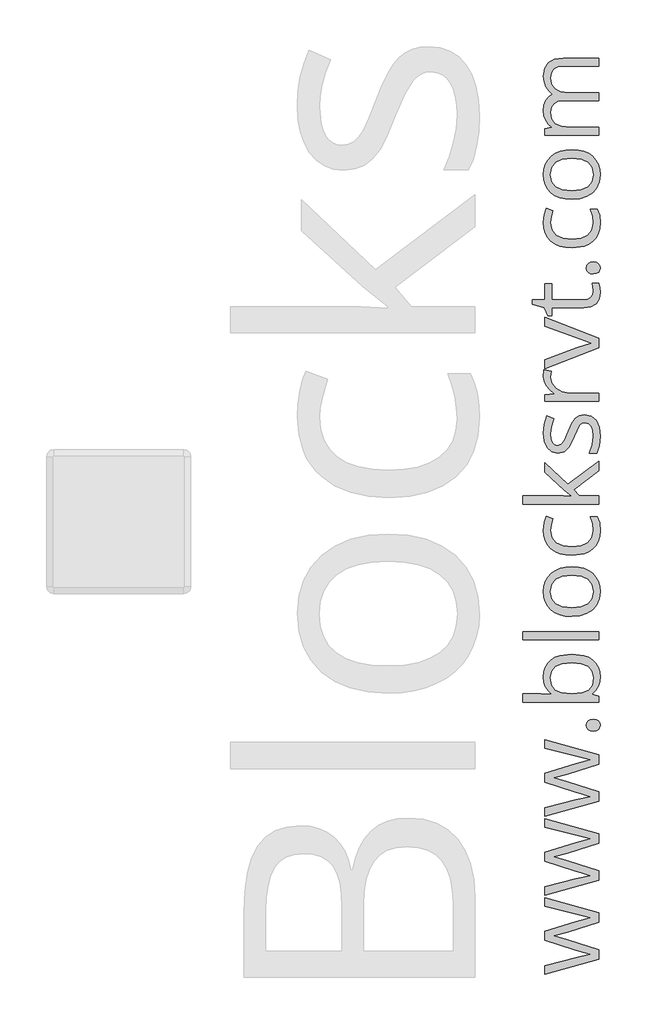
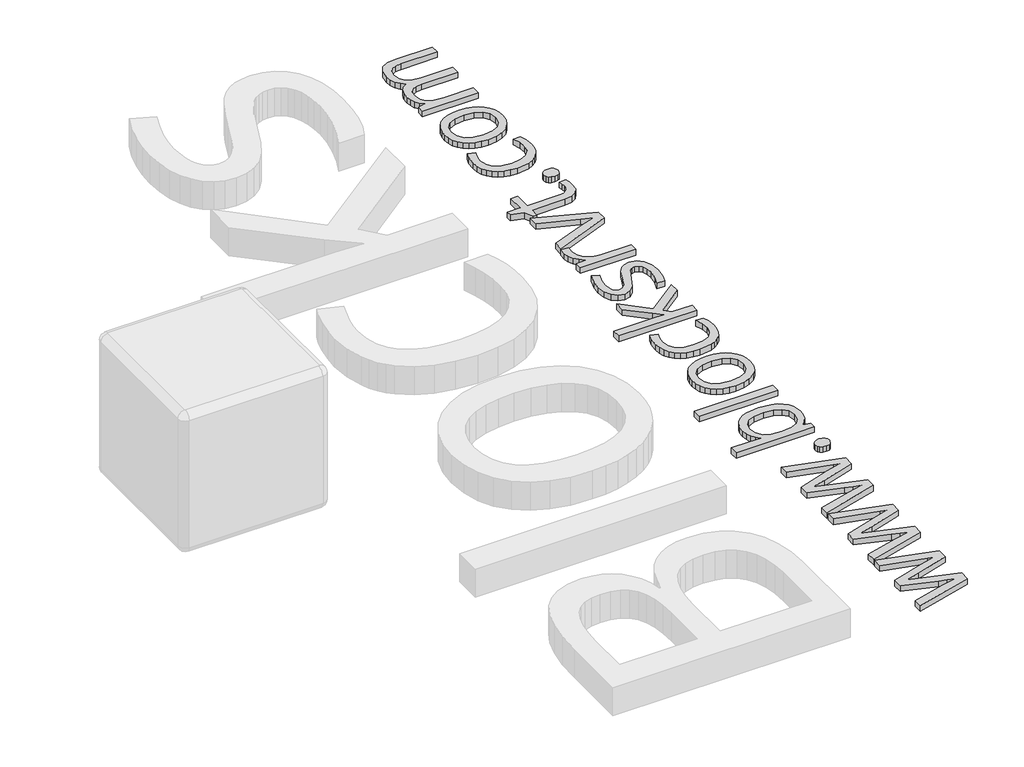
# One storey, part 12 of 12: 1 proxy.
"""IFC4 building model written with IfcOpenShell, lengths in millimetres."""

import ifcopenshell
import ifcopenshell.guid

model = None  # the IFC model being written
_history = None  # IfcOwnerHistory: only IFC2X3 demands one
_inside = {}  # id of a spatial element -> (the spatial element, [elements in it])
_under = {}  # id of a project, library or spatial element -> (it, [spatial elements below it])
_declared = {}  # id of a project -> (the project, [libraries it declares])
_typed = {}  # id of a type object -> (the type object, [elements of that type])
_made_of = {}  # id of a material, layer set ... -> (it, [elements and type objects made of it])


def new_model(schema):
    """Start an empty IFC model of exactly this schema.

    Asked for "IFC4X3", IfcOpenShell would pick the latest addendum, in which some entities
    have other attributes; the version numbers below select the first issue.
    IFC2X3 requires an IfcOwnerHistory on every rooted entity: one is made here for all.
    """
    global model, _history
    if schema == "IFC4X3":
        model = ifcopenshell.file(schema_version=(4, 3, 0, 0))
    else:
        model = ifcopenshell.file(schema=schema)
    _inside.clear()
    _under.clear()
    _declared.clear()
    _typed.clear()
    _made_of.clear()
    _history = None
    if model.schema == "IFC2X3":
        org = make("IfcOrganization", Name="unknown")
        user = make(
            "IfcPersonAndOrganization",
            ThePerson=make("IfcPerson", FamilyName="unknown"),
            TheOrganization=org,
        )
        app = make(
            "IfcApplication",
            ApplicationDeveloper=org,
            Version="unknown",
            ApplicationFullName="unknown",
            ApplicationIdentifier="unknown",
        )
        _history = make(
            "IfcOwnerHistory",
            OwningUser=user,
            OwningApplication=app,
            ChangeAction="ADDED",
            CreationDate=0,
        )
    return model


def make(cls, **values):
    """One entity of the class cls with the attributes given. An attribute that is None is left unset."""
    return model.create_entity(
        cls, **{name: value for name, value in values.items() if value is not None}
    )


def rooted(cls, **values):
    """An entity with a GlobalId (a new one), such as an element, a storey or a relation."""
    return make(cls, GlobalId=ifcopenshell.guid.new(), OwnerHistory=_history, **values)


def si_unit(unit_type, name, prefix=None):
    """IfcSIUnit, for example si_unit("LENGTHUNIT", "METRE", prefix="MILLI")."""
    return make("IfcSIUnit", UnitType=unit_type, Prefix=prefix, Name=name)


def assignment(units):
    """IfcUnitAssignment: the units of a project."""
    return None if units is None else make("IfcUnitAssignment", Units=units)


def point(xyz):
    """IfcCartesianPoint."""
    return None if xyz is None else make("IfcCartesianPoint", Coordinates=xyz)


def direction(xyz):
    """IfcDirection."""
    return None if xyz is None else make("IfcDirection", DirectionRatios=xyz)


def frame(location, z_axis=None, x_axis=None):
    """IfcAxis2Placement3D, a coordinate frame: its origin and axes. An axis left out is left unset."""
    return make(
        "IfcAxis2Placement3D",
        Location=point(location),
        Axis=direction(z_axis),
        RefDirection=direction(x_axis),
    )


def origin():
    """The frame at (0, 0, 0) with its axes left unset."""
    return frame((0.0, 0.0, 0.0))


def origin_with_axes():
    """The frame at (0, 0, 0) with the z axis (0, 0, 1) and the x axis (1, 0, 0) written out."""
    return frame((0.0, 0.0, 0.0), z_axis=(0.0, 0.0, 1.0), x_axis=(1.0, 0.0, 0.0))


def place(relative_to, where):
    """IfcLocalPlacement: puts the frame where relative to a parent placement (None: the world)."""
    return make(
        "IfcLocalPlacement", PlacementRelTo=relative_to, RelativePlacement=where
    )


def context(
    kind, dimensions, precision=None, world=None, true_north=None, identifier=None
):
    """IfcGeometricRepresentationContext, for example the 3D "Model" context."""
    return make(
        "IfcGeometricRepresentationContext",
        ContextIdentifier=identifier,
        ContextType=kind,
        CoordinateSpaceDimension=dimensions,
        Precision=precision,
        WorldCoordinateSystem=world,
        TrueNorth=true_north,
    )


def project(units=None, contexts=None):
    """IfcProject with its units and contexts."""
    return rooted(
        "IfcProject",
        Name="project",
        RepresentationContexts=contexts,
        UnitsInContext=assignment(units),
    )


def spatial(cls, under=None, at=None, **own):
    """A site, building, storey or space (cls), placed at a placement, below another one or the project."""
    s = rooted(cls, ObjectPlacement=at, **own)
    if under is not None:
        _under.setdefault(under.id(), (under, []))[1].append(s)
    return s


def polyline(points):
    """IfcPolyline through the points."""
    return make("IfcPolyline", Points=[point(p) for p in points])


def outline(outer, holes=None, kind="AREA"):
    """IfcArbitraryClosedProfileDef: a profile drawn as a closed curve; with holes, ...WithVoids."""
    if holes is None:
        return make("IfcArbitraryClosedProfileDef", ProfileType=kind, OuterCurve=outer)
    return make(
        "IfcArbitraryProfileDefWithVoids",
        ProfileType=kind,
        OuterCurve=outer,
        InnerCurves=holes,
    )


def extrude(swept, where, along, depth):
    """IfcExtrudedAreaSolid: the profile swept, set in the frame where, extruded along a direction by depth."""
    return make(
        "IfcExtrudedAreaSolid",
        SweptArea=swept,
        Position=where,
        ExtrudedDirection=direction(along),
        Depth=depth,
    )


def shape(context_of_items, identifier, shape_type, items):
    """IfcShapeRepresentation: the items that make up one representation, for example the "Body"."""
    return make(
        "IfcShapeRepresentation",
        ContextOfItems=context_of_items,
        RepresentationIdentifier=identifier,
        RepresentationType=shape_type,
        Items=items,
    )


def made_of(thing, what):
    """Note that an element or type object is made of a material, layer set ...; save() writes the relation."""
    if what is not None:
        _made_of.setdefault(what.id(), (what, []))[1].append(thing)
    return thing


def element(
    cls,
    number,
    at=None,
    inside=None,
    cuts=None,
    type_object=None,
    material=None,
    context=None,
    identifier="Body",
    shape_type=None,
    held_by="IfcProductDefinitionShape",
    body=None,
    shapes=None,
    **own,
):
    """One element of the class cls, such as IfcWall. Its Tag is "e" and its number.

    at: its placement. inside: the storey or other place that contains it. cuts: it is an
    opening in that element (IfcRelVoidsElement). A single representation is given by context,
    identifier, shape_type and body (its items); several are given by shapes. held_by: the class
    of the entity that holds the representations. save() writes the other relations.
    """
    e = rooted(cls, Tag="e%d" % number, ObjectPlacement=at, **own)
    if body is not None:
        shapes = [shape(context, identifier, shape_type, body)]
    if shapes is not None:
        e.Representation = make(held_by, Representations=shapes)
    if inside is not None:
        _inside.setdefault(inside.id(), (inside, []))[1].append(e)
    if cuts is not None:
        rooted(
            "IfcRelVoidsElement", RelatingBuildingElement=cuts, RelatedOpeningElement=e
        )
    if type_object is not None:
        _typed.setdefault(type_object.id(), (type_object, []))[1].append(e)
    return made_of(e, material)


def aggregate(whole, parts):
    """IfcRelAggregates: a whole, such as a stair, and the parts it consists of."""
    return rooted("IfcRelAggregates", RelatingObject=whole, RelatedObjects=parts)


def save(model, path):
    """Write the relations noted so far, then the file.

    IfcRelAggregates (storeys below a building ...), IfcRelContainedInSpatialStructure (elements
    in a storey), IfcRelDefinesByType, IfcRelAssociatesMaterial and IfcRelDeclares: one each for
    every whole, place, type object, material and project.
    """
    for whole, parts in _under.values():
        aggregate(whole, parts)
    for where, things in _inside.values():
        rooted(
            "IfcRelContainedInSpatialStructure",
            RelatedElements=things,
            RelatingStructure=where,
        )
    for kind, things in _typed.values():
        rooted("IfcRelDefinesByType", RelatedObjects=things, RelatingType=kind)
    for what, things in _made_of.values():
        rooted("IfcRelAssociatesMaterial", RelatedObjects=things, RelatingMaterial=what)
    for by, libraries in _declared.values():
        rooted("IfcRelDeclares", RelatingContext=by, RelatedDefinitions=libraries)
    model.write(path)


model = new_model("IFC4")

# Units and contexts
model_context = context("Model", 3, world=origin())
ifc_project = project(units=[si_unit("LENGTHUNIT", "METRE", prefix="MILLI")], contexts=[model_context])

# Site, building, storey
site = spatial("IfcSite", under=ifc_project)
building = spatial("IfcBuilding", under=site)
storey = spatial("IfcBuildingStorey", under=building, Name="PORTOBELLO - SHOWROOM", Elevation=0.0)

# Proxy
placement = place(None, origin())
element("IfcBuildingElementProxy", 1, Name="25mm OpenSans", ObjectType="25mm OpenSans", at=placement, inside=storey, context=model_context, shape_type="SweptSolid", body=[
    extrude(outline(polyline([(-9612.6766335, 10052.0380441), (-9722.4882768, 10017.5579377), (-9768.2118962, 10005.3399869), (-9722.1134931, 9991.9227281), (-9612.6766335, 9956.3932271), (-9612.6766335, 9923.4872125), (-9799.7686893, 9872.1418366), (-9799.7686893, 9901.9746244), (-9692.4306188, 9929.708623), (-9642.7342915, 9940.652309), (-9667.9197606, 9948.0730275), (-9692.4306188, 9955.4187893), (-9799.7686893, 9989.8988958), (-9799.7686893, 10020.7810781), (-9692.3556621, 10054.4366602), (-9643.0341185, 10067.4791353), (-9661.9981771, 10072.5761945), (-9799.7686893, 10108.3305657), (-9799.7686893, 10137.8635265), (-9612.6766335, 10085.8435398), (-9612.6766335, 10052.0380441)])), origin_with_axes(), (0.0, 0.0, 1.0), 20.0),
    extrude(outline(polyline([(-9612.6766335, 10325.4802796), (-9722.4882768, 10291.0001731), (-9768.2118962, 10278.7822224), (-9722.1134931, 10265.3649635), (-9612.6766335, 10229.8354626), (-9612.6766335, 10196.9294479), (-9799.7686893, 10145.584072), (-9799.7686893, 10175.4168598), (-9692.4306188, 10203.1508584), (-9642.7342915, 10214.0945444), (-9667.9197606, 10221.515263), (-9692.4306188, 10228.8610248), (-9799.7686893, 10263.3411312), (-9799.7686893, 10294.2233135), (-9692.3556621, 10327.8788957), (-9643.0341185, 10340.9213707), (-9661.9981771, 10346.0184299), (-9799.7686893, 10381.7728012), (-9799.7686893, 10411.3057619), (-9612.6766335, 10359.2857752), (-9612.6766335, 10325.4802796)])), origin_with_axes(), (0.0, 0.0, 1.0), 20.0),
    extrude(outline(polyline([(-9612.6766335, 10598.922515), (-9722.4882768, 10564.4424085), (-9768.2118962, 10552.2244578), (-9722.1134931, 10538.807199), (-9612.6766335, 10503.277698), (-9612.6766335, 10470.3716834), (-9799.7686893, 10419.0263075), (-9799.7686893, 10448.8590952), (-9692.4306188, 10476.5930939), (-9642.7342915, 10487.5367798), (-9667.9197606, 10494.9574984), (-9692.4306188, 10502.3032602), (-9799.7686893, 10536.7833666), (-9799.7686893, 10567.6655489), (-9692.3556621, 10601.3211311), (-9643.0341185, 10614.3636061), (-9661.9981771, 10619.4606653), (-9799.7686893, 10655.2150366), (-9799.7686893, 10684.7479973), (-9612.6766335, 10632.7280106), (-9612.6766335, 10598.922515)])), origin_with_axes(), (0.0, 0.0, 1.0), 20.0),
    extrude(outline(polyline([(-9631.7906055, 10713.9061743), (-9642.2002246, 10715.2085479), (-9649.7427479, 10719.1156686), (-9654.3244795, 10725.4588839), (-9655.8517233, 10734.0695409), (-9654.3244795, 10742.9331769), (-9649.7427479, 10749.5855888), (-9642.2002246, 10753.7456886), (-9631.7906055, 10755.1323885), (-9621.5871175, 10753.7175798), (-9614.0633334, 10749.4731536), (-9609.4253843, 10742.792633), (-9607.8794013, 10734.0695409), (-9613.4636794, 10719.6403659), (-9620.83755, 10715.3397222), (-9631.7906055, 10713.9061743)])), origin_with_axes(), (0.0, 0.0, 1.0), 20.0),
    extrude(outline(polyline([(-9804.5659215, 10902.2724949), (-9802.9660633, 10919.8568807), (-9798.1664887, 10935.3565318), (-9790.1671977, 10948.7714482), (-9778.9681903, 10960.1016299), (-9764.8458695, 10969.1034675), (-9748.0766384, 10975.5333515), (-9706.5974452, 10980.6772587), (-9664.977708, 10975.4865035), (-9648.0890146, 10968.9980596), (-9633.8144379, 10959.9142381), (-9622.4678594, 10948.5301812), (-9614.3631604, 10935.1410311), (-9609.5003411, 10919.746788), (-9607.8794013, 10902.3474517), (-9609.594037, 10884.7045059), (-9614.7379442, 10868.6543911), (-9623.4422972, 10854.6468479), (-9635.8382702, 10843.1316167), (-9635.8382702, 10841.0328276), (-9612.6766335, 10835.0362873), (-9612.6766335, 10814.7230072), (-9876.5244045, 10814.7230072), (-9876.5244045, 10843.0566599), (-9813.9355157, 10843.0566599), (-9776.1573121, 10841.7074384), (-9788.5860787, 10854.2626945), (-9797.4637692, 10867.8673452), (-9802.7903834, 10883.870612), (-9804.5659215, 10902.2724949)]), holes=[polyline([(-9780.5797605, 10898.299787), (-9776.344704, 10873.0299916), (-9763.6395343, 10855.9866998), (-9740.9088989, 10846.2891699), (-9706.5974452, 10843.0566599), (-9672.1454475, 10846.3828658), (-9649.1430939, 10856.3614836), (-9636.1849452, 10873.667124), (-9631.8655623, 10898.9743978), (-9636.7096425, 10922.0517081), (-9651.241883, 10938.3641715), (-9674.8438906, 10948.0617015), (-9706.8972722, 10951.2942114), (-9739.3441767, 10948.0617015), (-9762.3277911, 10938.3641715), (-9776.0167682, 10921.8830554), (-9780.5797605, 10898.299787)])]), origin_with_axes(), (0.0, 0.0, 1.0), 20.0),
    extrude(outline(polyline([(-9612.6766335, 11057.9576712), (-9612.6766335, 11029.6240185), (-9876.5244045, 11029.6240185), (-9876.5244045, 11057.9576712), (-9612.6766335, 11057.9576712)])), origin_with_axes(), (0.0, 0.0, 1.0), 20.0),
    extrude(outline(polyline([(-9706.3725749, 11282.9028873), (-9684.4453822, 11281.4623122), (-9665.0620343, 11277.1405869), (-9648.2225313, 11269.9377114), (-9633.926873, 11259.8536857), (-9622.5311041, 11247.2351848), (-9614.3912692, 11232.4288837), (-9609.5073683, 11215.4347823), (-9607.8794013, 11196.2528807), (-9610.8683018, 11172.5571771), (-9619.8350034, 11151.6910909), (-9634.3859831, 11134.4604073), (-9654.127718, 11121.6709113), (-9678.3574884, 11113.7442347), (-9706.3725749, 11111.1020091), (-9728.290398, 11112.5308722), (-9747.6456371, 11116.8174616), (-9764.4382922, 11123.9617771), (-9778.6683633, 11133.9638188), (-9789.998545, 11146.5050206), (-9798.091532, 11161.2668162), (-9802.9473241, 11178.2492055), (-9804.5659215, 11197.4521887), (-9802.9098457, 11216.0484907), (-9797.9416185, 11232.6350147), (-9789.6612396, 11247.2117608), (-9778.0687093, 11259.778729), (-9763.6512463, 11269.8955482), (-9746.8960696, 11277.1218477), (-9727.8031791, 11281.4576274), (-9706.3725749, 11282.9028873)]), holes=[polyline([(-9706.5974452, 11140.5600131), (-9674.4409981, 11144.1391981), (-9650.9795343, 11154.876753), (-9636.6440553, 11172.5478075), (-9631.8655623, 11196.9274915), (-9636.6253161, 11221.3259146), (-9650.9045776, 11239.0531867), (-9674.3473021, 11249.8469592), (-9706.5974452, 11253.4448833), (-9738.5196524, 11249.8469592), (-9761.7281371, 11239.0531867), (-9775.8668547, 11221.2322187), (-9780.5797605, 11196.5527077), (-9775.9324418, 11172.2198717), (-9761.9904857, 11154.6893611), (-9738.8475882, 11144.0923501), (-9706.5974452, 11140.5600131)])]), origin_with_axes(), (0.0, 0.0, 1.0), 20.0),
    extrude(outline(polyline([(-9607.8794013, 11408.3055353), (-9609.4652051, 11388.9620082), (-9614.2226165, 11371.9327708), (-9622.1516356, 11357.2178232), (-9633.2522622, 11344.8171654), (-9647.2527783, 11334.9790915), (-9663.8814655, 11327.9518959), (-9705.0233534, 11322.3301394), (-9727.4705585, 11323.7566602), (-9747.2146358, 11328.0362223), (-9764.2555851, 11335.1688258), (-9778.5934065, 11345.1544708), (-9789.9563818, 11357.7776565), (-9798.0727928, 11372.8228823), (-9802.9426393, 11390.2901482), (-9804.5659215, 11410.1794541), (-9801.7925216, 11437.4262339), (-9795.2712841, 11458.7514301), (-9771.8098204, 11449.98149), (-9778.0687093, 11429.2559478), (-9780.5797605, 11409.4298866), (-9775.8902786, 11384.211624), (-9761.821833, 11366.1985792), (-9738.3744237, 11355.3907524), (-9705.5480506, 11351.7881434), (-9674.0849535, 11355.3017412), (-9650.9045776, 11365.8425346), (-9636.6253161, 11383.2793493), (-9631.8655623, 11407.481011), (-9634.3953527, 11431.4484328), (-9641.984724, 11455.9780303), (-9617.3239522, 11455.9780303), (-9610.240539, 11434.5778773), (-9607.8794013, 11408.3055353)])), origin_with_axes(), (0.0, 0.0, 1.0), 20.0),
    extrude(outline(polyline([(-9706.5224884, 11527.5617295), (-9734.4064006, 11550.4235392), (-9799.7686893, 11610.3889417), (-9799.7686893, 11643.7446969), (-9720.014704, 11568.4881167), (-9612.6766335, 11648.9916696), (-9612.6766335, 11614.8863469), (-9699.0268131, 11549.2991879), (-9681.0371923, 11528.3112971), (-9612.6766335, 11528.3112971), (-9612.6766335, 11500.2774714), (-9876.5244045, 11500.2774714), (-9876.5244045, 11528.3112971), (-9735.5307519, 11528.3112971), (-9706.5224884, 11527.5617295)])), origin_with_axes(), (0.0, 0.0, 1.0), 20.0),
    extrude(outline(polyline([(-9663.1225284, 11809.2492078), (-9639.6329558, 11804.3489101), (-9622.2336195, 11789.6480168), (-9611.4679558, 11766.1022268), (-9607.8794013, 11734.6672384), (-9610.840193, 11701.3677008), (-9619.7225683, 11676.2759277), (-9646.2572589, 11676.2759277), (-9635.7258351, 11705.4341047), (-9631.8655623, 11735.416806), (-9633.6457852, 11755.2334976), (-9638.9864538, 11769.859434), (-9647.9812642, 11778.8823532), (-9660.7239123, 11781.8899929), (-9671.0117266, 11779.5007464), (-9679.6879708, 11772.3330069), (-9698.2772456, 11735.1169789), (-9715.5172988, 11697.7135591), (-9732.1951764, 11681.1855951), (-9754.5697672, 11675.7512305), (-9775.2953094, 11680.4360275), (-9791.1486627, 11694.4904187), (-9801.2116068, 11716.715096), (-9804.5659215, 11745.9107514), (-9801.4552163, 11775.9496702), (-9792.1231005, 11805.3514566), (-9768.9614638, 11795.1573382), (-9777.6751863, 11768.0979503), (-9780.5797605, 11743.7370056), (-9778.9775599, 11725.9160375), (-9774.1709581, 11713.0796935), (-9766.5347389, 11705.3216696), (-9756.443686, 11702.7356616), (-9743.4386893, 11706.5959344), (-9733.2445709, 11719.0762338), (-9719.1901797, 11752.1321619), (-9706.8597938, 11780.2128355), (-9694.4544512, 11797.4435192), (-9680.4000599, 11806.2977856), (-9663.1225284, 11809.2492078)])), origin_with_axes(), (0.0, 0.0, 1.0), 20.0),
    extrude(outline(polyline([(-9804.5659215, 11941.6977906), (-9802.6920027, 11964.33473), (-9778.0312309, 11960.3620221), (-9780.5797605, 11939.6739582), (-9775.8855938, 11918.3393924), (-9761.8030938, 11900.3591412), (-9740.7121374, 11888.1318209), (-9714.9926015, 11884.0560474), (-9612.6766335, 11884.0560474), (-9612.6766335, 11855.7223947), (-9799.7686893, 11855.7223947), (-9799.7686893, 11879.1089017), (-9766.1880639, 11882.3320421), (-9782.5098969, 11895.3182996), (-9794.5966733, 11909.091603), (-9802.0736095, 11924.6638684), (-9804.5659215, 11941.6977906)])), origin_with_axes(), (0.0, 0.0, 1.0), 20.0),
    extrude(outline(polyline([(-9612.6766335, 12041.3153155), (-9799.7686893, 11969.3568325), (-9799.7686893, 12000.164058), (-9688.8326947, 12041.0154885), (-9638.3118431, 12057.2061471), (-9675.7902196, 12070.623406), (-9799.7686893, 12116.0471984), (-9799.7686893, 12146.8544239), (-9612.6766335, 12074.8959409), (-9612.6766335, 12041.3153155)])), origin_with_axes(), (0.0, 0.0, 1.0), 20.0),
    extrude(outline(polyline([(-9631.8655623, 12238.226706), (-9632.9899136, 12252.9182296), (-9635.3135729, 12264.1617425), (-9613.126374, 12264.1617425), (-9609.3785364, 12250.4446567), (-9607.8794013, 12234.1790413), (-9611.4398471, 12210.1741411), (-9622.1211844, 12193.0277838), (-9639.9234133, 12182.7399695), (-9664.8465337, 12179.310698), (-9775.7825283, 12179.310698), (-9775.7825283, 12152.1763534), (-9789.7994411, 12152.1763534), (-9801.9424351, 12179.1607845), (-9842.9437791, 12191.2288217), (-9842.9437791, 12207.7193074), (-9799.7686893, 12207.7193074), (-9799.7686893, 12262.812521), (-9775.7825283, 12262.812521), (-9775.7825283, 12207.7193074), (-9666.570539, 12207.7193074), (-9651.7384715, 12209.7525094), (-9640.8228943, 12215.8521151), (-9634.1048953, 12225.5121667), (-9631.8655623, 12238.226706)])), origin_with_axes(), (0.0, 0.0, 1.0), 20.0),
    extrude(outline(polyline([(-9631.7906055, 12296.9928004), (-9642.2002246, 12298.295174), (-9649.7427479, 12302.2022948), (-9654.3244795, 12308.54551), (-9655.8517233, 12317.156167), (-9654.3244795, 12326.0198031), (-9649.7427479, 12332.6722149), (-9642.2002246, 12336.8323147), (-9631.7906055, 12338.2190146), (-9621.5871175, 12336.8042059), (-9614.0633334, 12332.5597798), (-9609.4253843, 12325.8792592), (-9607.8794013, 12317.156167), (-9613.4636794, 12302.726992), (-9620.83755, 12298.4263483), (-9631.7906055, 12296.9928004)])), origin_with_axes(), (0.0, 0.0, 1.0), 20.0),
    extrude(outline(polyline([(-9607.8794013, 12473.2910838), (-9609.4652051, 12453.9475567), (-9614.2226165, 12436.9183193), (-9622.1516356, 12422.2033717), (-9633.2522622, 12409.8027139), (-9647.2527783, 12399.96464), (-9663.8814655, 12392.9374444), (-9705.0233534, 12387.3156879), (-9727.4705585, 12388.7422086), (-9747.2146358, 12393.0217708), (-9764.2555851, 12400.1543743), (-9778.5934065, 12410.1400193), (-9789.9563818, 12422.763205), (-9798.0727928, 12437.8084308), (-9802.9426393, 12455.2756966), (-9804.5659215, 12475.1650026), (-9801.7925216, 12502.4117824), (-9795.2712841, 12523.7369786), (-9771.8098204, 12514.9670385), (-9778.0687093, 12494.2414963), (-9780.5797605, 12474.4154351), (-9775.8902786, 12449.1971724), (-9761.821833, 12431.1841277), (-9738.3744237, 12420.3763009), (-9705.5480506, 12416.7736919), (-9674.0849535, 12420.2872897), (-9650.9045776, 12430.8280831), (-9636.6253161, 12448.2648978), (-9631.8655623, 12472.4665595), (-9634.3953527, 12496.4339813), (-9641.984724, 12520.9635788), (-9617.3239522, 12520.9635788), (-9610.240539, 12499.5634257), (-9607.8794013, 12473.2910838)])), origin_with_axes(), (0.0, 0.0, 1.0), 20.0),
    extrude(outline(polyline([(-9706.3725749, 12726.8697796), (-9684.4453822, 12725.4292045), (-9665.0620343, 12721.1074792), (-9648.2225313, 12713.9046037), (-9633.926873, 12703.820578), (-9622.5311041, 12691.2020771), (-9614.3912692, 12676.395776), (-9609.5073683, 12659.4016746), (-9607.8794013, 12640.219773), (-9610.8683018, 12616.5240694), (-9619.8350034, 12595.6579833), (-9634.3859831, 12578.4272996), (-9654.127718, 12565.6378036), (-9678.3574884, 12557.711127), (-9706.3725749, 12555.0689014), (-9728.290398, 12556.4977646), (-9747.6456371, 12560.7843539), (-9764.4382922, 12567.9286694), (-9778.6683633, 12577.9307111), (-9789.998545, 12590.4719129), (-9798.091532, 12605.2337085), (-9802.9473241, 12622.2160979), (-9804.5659215, 12641.4190811), (-9802.9098457, 12660.015383), (-9797.9416185, 12676.6019071), (-9789.6612396, 12691.1786531), (-9778.0687093, 12703.7456213), (-9763.6512463, 12713.8624406), (-9746.8960696, 12721.08874), (-9727.8031791, 12725.4245197), (-9706.3725749, 12726.8697796)]), holes=[polyline([(-9706.5974452, 12584.5269054), (-9674.4409981, 12588.1060904), (-9650.9795343, 12598.8436453), (-9636.6440553, 12616.5146998), (-9631.8655623, 12640.8943838), (-9636.6253161, 12665.2928069), (-9650.9045776, 12683.020079), (-9674.3473021, 12693.8138515), (-9706.5974452, 12697.4117756), (-9738.5196524, 12693.8138515), (-9761.7281371, 12683.020079), (-9775.8668547, 12665.199111), (-9780.5797605, 12640.5196), (-9775.9324418, 12616.186764), (-9761.9904857, 12598.6562534), (-9738.8475882, 12588.0592424), (-9706.5974452, 12584.5269054)])]), origin_with_axes(), (0.0, 0.0, 1.0), 20.0),
    extrude(outline(polyline([(-9612.6766335, 13015.9030197), (-9735.4557951, 13015.9030197), (-9755.19753, 13013.5044036), (-9769.2987692, 13006.3085553), (-9777.7595127, 12994.0531262), (-9780.5797605, 12976.4757675), (-9776.7475965, 12953.4078268), (-9765.2511045, 12937.2733857), (-9745.7904575, 12927.7726172), (-9718.0658284, 12924.6056944), (-9612.6766335, 12924.6056944), (-9612.6766335, 12896.1970849), (-9735.4557951, 12896.1970849), (-9755.19753, 12893.7984688), (-9769.2987692, 12886.6026205), (-9777.7595127, 12874.309713), (-9780.5797605, 12856.6199193), (-9776.550835, 12833.4395434), (-9764.4640586, 12817.4175374), (-9743.2138191, 12808.0854216), (-9711.6945044, 12804.9747164), (-9612.6766335, 12804.9747164), (-9612.6766335, 12776.6410637), (-9799.7686893, 12776.6410637), (-9799.7686893, 12799.7277437), (-9775.7825283, 12804.3001056), (-9787.8599352, 12815.3843355), (-9796.9578111, 12828.3987017), (-9802.6638939, 12843.9241192), (-9804.5659215, 12861.1922812), (-9802.5983067, 12881.2900607), (-9796.6954624, 12897.5837849), (-9786.8573886, 12910.0734539), (-9773.0840852, 12918.7590676), (-9786.1078211, 12930.386734), (-9796.0958084, 12944.4317556), (-9802.4483932, 12961.4750473), (-9804.5659215, 12980.7483025), (-9800.4620393, 13008.6041059), (-9788.1503926, 13028.4582758), (-9766.8064571, 13040.3482908), (-9735.6057086, 13044.3116291), (-9612.6766335, 13044.3116291), (-9612.6766335, 13015.9030197)])), origin_with_axes(), (0.0, 0.0, 1.0), 20.0),
])

save(model, "model.ifc")
